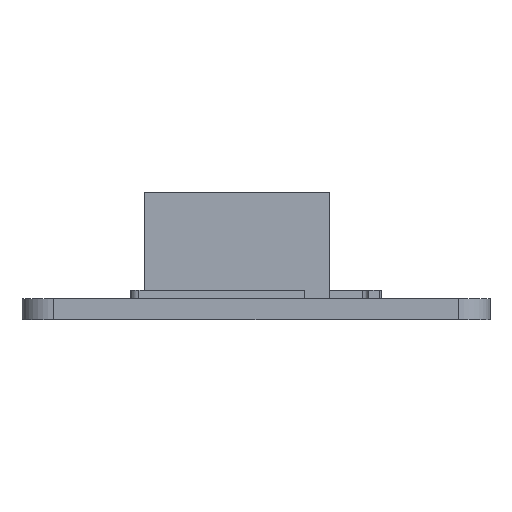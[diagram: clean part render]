
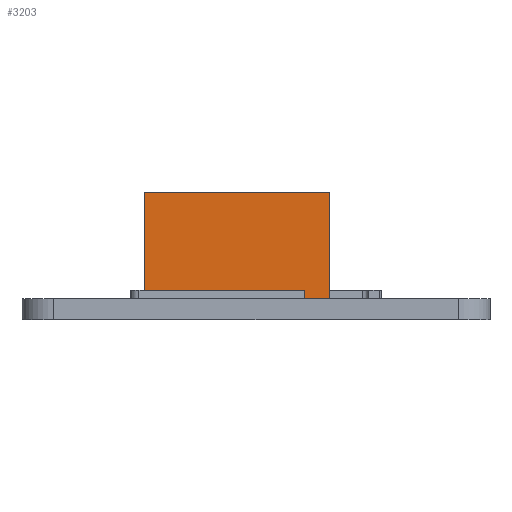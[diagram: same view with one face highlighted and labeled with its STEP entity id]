
A CAD part, front view. The second image highlights one B-rep face of the part: STEP entity #3203.
In plain terms, the highlighted planar face has unit normal (0, -1, 0).
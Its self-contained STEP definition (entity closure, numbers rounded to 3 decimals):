
#44 = PLANE('',#45);
#45 = AXIS2_PLACEMENT_3D('',#46,#47,#48);
#46 = CARTESIAN_POINT('',(-22.,-26.,-12.));
#47 = DIRECTION('',(0.,0.,1.));
#48 = DIRECTION('',(1.,0.,0.));
#2743 = VERTEX_POINT('',#2744);
#2744 = CARTESIAN_POINT('',(-10.45,-20.469,-12.));
#2760 = PLANE('',#2761);
#2761 = AXIS2_PLACEMENT_3D('',#2762,#2763,#2764);
#2762 = CARTESIAN_POINT('',(-10.45,-20.469,-12.));
#2763 = DIRECTION('',(1.,0.,0.));
#2764 = DIRECTION('',(0.,0.,1.));
#2801 = VERTEX_POINT('',#2802);
#2802 = CARTESIAN_POINT('',(6.95,-20.469,-12.));
#2816 = PLANE('',#2817);
#2817 = AXIS2_PLACEMENT_3D('',#2818,#2819,#2820);
#2818 = CARTESIAN_POINT('',(6.95,-20.469,-12.));
#2819 = DIRECTION('',(1.,0.,0.));
#2820 = DIRECTION('',(0.,0.,1.));
#2828 = EDGE_CURVE('',#2743,#2801,#2829,.T.);
#2829 = SURFACE_CURVE('',#2830,(#2834,#2841),.PCURVE_S1.);
#2830 = LINE('',#2831,#2832);
#2831 = CARTESIAN_POINT('',(-10.45,-20.469,-12.));
#2832 = VECTOR('',#2833,1.);
#2833 = DIRECTION('',(1.,0.,0.));
#2834 = PCURVE('',#44,#2835);
#2835 = DEFINITIONAL_REPRESENTATION('',(#2836),#2840);
#2836 = LINE('',#2837,#2838);
#2837 = CARTESIAN_POINT('',(11.55,5.531));
#2838 = VECTOR('',#2839,1.);
#2839 = DIRECTION('',(1.,0.));
#2840 = ( GEOMETRIC_REPRESENTATION_CONTEXT(2) 
PARAMETRIC_REPRESENTATION_CONTEXT() REPRESENTATION_CONTEXT('2D SPACE',''
  ) );
#2841 = PCURVE('',#2842,#2847);
#2842 = PLANE('',#2843);
#2843 = AXIS2_PLACEMENT_3D('',#2844,#2845,#2846);
#2844 = CARTESIAN_POINT('',(-10.45,-20.469,-12.));
#2845 = DIRECTION('',(0.,1.,0.));
#2846 = DIRECTION('',(0.,0.,1.));
#2847 = DEFINITIONAL_REPRESENTATION('',(#2848),#2852);
#2848 = LINE('',#2849,#2850);
#2849 = CARTESIAN_POINT('',(0.,0.));
#2850 = VECTOR('',#2851,1.);
#2851 = DIRECTION('',(0.,1.));
#2852 = ( GEOMETRIC_REPRESENTATION_CONTEXT(2) 
PARAMETRIC_REPRESENTATION_CONTEXT() REPRESENTATION_CONTEXT('2D SPACE',''
  ) );
#3203 = ADVANCED_FACE('',(#3204),#2842,.F.);
#3204 = FACE_BOUND('',#3205,.F.);
#3205 = EDGE_LOOP('',(#3206,#3207,#3230,#3258));
#3206 = ORIENTED_EDGE('',*,*,#2828,.F.);
#3207 = ORIENTED_EDGE('',*,*,#3208,.T.);
#3208 = EDGE_CURVE('',#2743,#3209,#3211,.T.);
#3209 = VERTEX_POINT('',#3210);
#3210 = CARTESIAN_POINT('',(-10.45,-20.469,-2.));
#3211 = SURFACE_CURVE('',#3212,(#3216,#3223),.PCURVE_S1.);
#3212 = LINE('',#3213,#3214);
#3213 = CARTESIAN_POINT('',(-10.45,-20.469,-12.));
#3214 = VECTOR('',#3215,1.);
#3215 = DIRECTION('',(0.,0.,1.));
#3216 = PCURVE('',#2842,#3217);
#3217 = DEFINITIONAL_REPRESENTATION('',(#3218),#3222);
#3218 = LINE('',#3219,#3220);
#3219 = CARTESIAN_POINT('',(0.,0.));
#3220 = VECTOR('',#3221,1.);
#3221 = DIRECTION('',(1.,0.));
#3222 = ( GEOMETRIC_REPRESENTATION_CONTEXT(2) 
PARAMETRIC_REPRESENTATION_CONTEXT() REPRESENTATION_CONTEXT('2D SPACE',''
  ) );
#3223 = PCURVE('',#2760,#3224);
#3224 = DEFINITIONAL_REPRESENTATION('',(#3225),#3229);
#3225 = LINE('',#3226,#3227);
#3226 = CARTESIAN_POINT('',(0.,0.));
#3227 = VECTOR('',#3228,1.);
#3228 = DIRECTION('',(1.,0.));
#3229 = ( GEOMETRIC_REPRESENTATION_CONTEXT(2) 
PARAMETRIC_REPRESENTATION_CONTEXT() REPRESENTATION_CONTEXT('2D SPACE',''
  ) );
#3230 = ORIENTED_EDGE('',*,*,#3231,.T.);
#3231 = EDGE_CURVE('',#3209,#3232,#3234,.T.);
#3232 = VERTEX_POINT('',#3233);
#3233 = CARTESIAN_POINT('',(6.95,-20.469,-2.));
#3234 = SURFACE_CURVE('',#3235,(#3239,#3246),.PCURVE_S1.);
#3235 = LINE('',#3236,#3237);
#3236 = CARTESIAN_POINT('',(-10.45,-20.469,-2.));
#3237 = VECTOR('',#3238,1.);
#3238 = DIRECTION('',(1.,0.,0.));
#3239 = PCURVE('',#2842,#3240);
#3240 = DEFINITIONAL_REPRESENTATION('',(#3241),#3245);
#3241 = LINE('',#3242,#3243);
#3242 = CARTESIAN_POINT('',(10.,0.));
#3243 = VECTOR('',#3244,1.);
#3244 = DIRECTION('',(0.,1.));
#3245 = ( GEOMETRIC_REPRESENTATION_CONTEXT(2) 
PARAMETRIC_REPRESENTATION_CONTEXT() REPRESENTATION_CONTEXT('2D SPACE',''
  ) );
#3246 = PCURVE('',#3247,#3252);
#3247 = PLANE('',#3248);
#3248 = AXIS2_PLACEMENT_3D('',#3249,#3250,#3251);
#3249 = CARTESIAN_POINT('',(-10.45,-20.469,-2.));
#3250 = DIRECTION('',(0.,0.,1.));
#3251 = DIRECTION('',(1.,0.,0.));
#3252 = DEFINITIONAL_REPRESENTATION('',(#3253),#3257);
#3253 = LINE('',#3254,#3255);
#3254 = CARTESIAN_POINT('',(0.,0.));
#3255 = VECTOR('',#3256,1.);
#3256 = DIRECTION('',(1.,0.));
#3257 = ( GEOMETRIC_REPRESENTATION_CONTEXT(2) 
PARAMETRIC_REPRESENTATION_CONTEXT() REPRESENTATION_CONTEXT('2D SPACE',''
  ) );
#3258 = ORIENTED_EDGE('',*,*,#3259,.F.);
#3259 = EDGE_CURVE('',#2801,#3232,#3260,.T.);
#3260 = SURFACE_CURVE('',#3261,(#3265,#3272),.PCURVE_S1.);
#3261 = LINE('',#3262,#3263);
#3262 = CARTESIAN_POINT('',(6.95,-20.469,-12.));
#3263 = VECTOR('',#3264,1.);
#3264 = DIRECTION('',(0.,0.,1.));
#3265 = PCURVE('',#2842,#3266);
#3266 = DEFINITIONAL_REPRESENTATION('',(#3267),#3271);
#3267 = LINE('',#3268,#3269);
#3268 = CARTESIAN_POINT('',(0.,17.4));
#3269 = VECTOR('',#3270,1.);
#3270 = DIRECTION('',(1.,0.));
#3271 = ( GEOMETRIC_REPRESENTATION_CONTEXT(2) 
PARAMETRIC_REPRESENTATION_CONTEXT() REPRESENTATION_CONTEXT('2D SPACE',''
  ) );
#3272 = PCURVE('',#2816,#3273);
#3273 = DEFINITIONAL_REPRESENTATION('',(#3274),#3278);
#3274 = LINE('',#3275,#3276);
#3275 = CARTESIAN_POINT('',(0.,0.));
#3276 = VECTOR('',#3277,1.);
#3277 = DIRECTION('',(1.,0.));
#3278 = ( GEOMETRIC_REPRESENTATION_CONTEXT(2) 
PARAMETRIC_REPRESENTATION_CONTEXT() REPRESENTATION_CONTEXT('2D SPACE',''
  ) );
